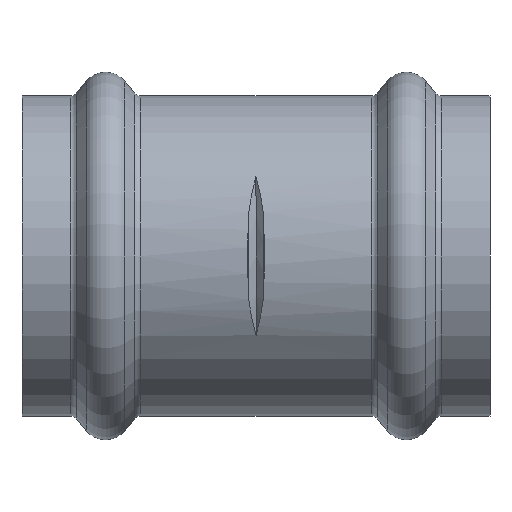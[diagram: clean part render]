
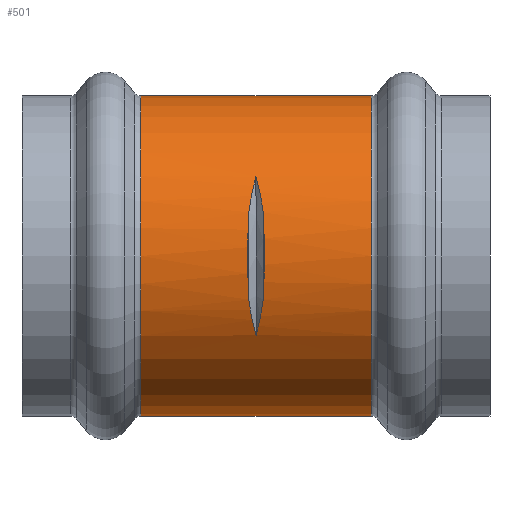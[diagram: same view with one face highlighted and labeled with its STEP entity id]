
A CAD part, front view. The second image highlights one B-rep face of the part: STEP entity #501.
In plain terms, the highlighted cylindrical face has radius 19.15 mm (diameter 38.3 mm), a partial arc.
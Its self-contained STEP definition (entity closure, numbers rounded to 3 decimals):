
#47 = EDGE_LOOP ( 'NONE', ( #655, #381, #93, #1516 ) ) ;
#91 = EDGE_LOOP ( 'NONE', ( #1649, #1735, #506, #459, #509, #1593 ) ) ;
#93 = ORIENTED_EDGE ( 'NONE', *, *, #1122, .T. ) ;
#103 = CARTESIAN_POINT ( 'NONE',  ( 1., -19.15, -0.424 ) ) ;
#195 = EDGE_CURVE ( 'NONE', #1580, #1938, #1861, .T. ) ;
#239 = DIRECTION ( 'NONE',  ( 0., 0., 1. ) ) ;
#250 = CARTESIAN_POINT ( 'NONE',  ( 0.985, -19.075, -1.753 ) ) ;
#260 = CARTESIAN_POINT ( 'NONE',  ( -0.953, -18.908, -3.515 ) ) ;
#276 = CARTESIAN_POINT ( 'NONE',  ( -16.83, 0., 19.15 ) ) ;
#309 = CARTESIAN_POINT ( 'NONE',  ( -0.859, -18.424, 5.223 ) ) ;
#335 = CARTESIAN_POINT ( 'NONE',  ( -13.778, 0., -19.15 ) ) ;
#374 = DIRECTION ( 'NONE',  ( 0., 0., -1. ) ) ;
#378 = CARTESIAN_POINT ( 'NONE',  ( 0., -16.629, -9.497 ) ) ;
#381 = ORIENTED_EDGE ( 'NONE', *, *, #1513, .T. ) ;
#412 = CARTESIAN_POINT ( 'NONE',  ( 0.941, -18.847, -3.505 ) ) ;
#424 = CARTESIAN_POINT ( 'NONE',  ( -0.906, -18.666, 4.369 ) ) ;
#431 = VERTEX_POINT ( 'NONE', #529 ) ;
#441 = EDGE_CURVE ( 'NONE', #1268, #1938, #1884, .T. ) ;
#444 = AXIS2_PLACEMENT_3D ( 'NONE', #1736, #863, #239 ) ;
#448 = AXIS2_PLACEMENT_3D ( 'NONE', #1951, #1282, #374 ) ;
#459 = ORIENTED_EDGE ( 'NONE', *, *, #1117, .T. ) ;
#501 = ADVANCED_FACE ( 'NONE', ( #1071, #1460 ), #1411, .T. ) ;
#506 = ORIENTED_EDGE ( 'NONE', *, *, #1215, .T. ) ;
#509 = ORIENTED_EDGE ( 'NONE', *, *, #1412, .T. ) ;
#528 = EDGE_CURVE ( 'NONE', #1508, #1385, #1281, .T. ) ;
#529 = CARTESIAN_POINT ( 'NONE',  ( -0.859, -18.424, -5.223 ) ) ;
#538 = CIRCLE ( 'NONE', #1425, 19.15 ) ;
#567 = VECTOR ( 'NONE', #1483, 1000. ) ;
#577 = CARTESIAN_POINT ( 'NONE',  ( 0.859, -18.424, -5.223 ) ) ;
#578 = CARTESIAN_POINT ( 'NONE',  ( -0.859, -18.424, 5.223 ) ) ;
#595 = CARTESIAN_POINT ( 'NONE',  ( 0.859, -18.424, -5.223 ) ) ;
#629 = CARTESIAN_POINT ( 'NONE',  ( 0.859, -18.424, 5.223 ) ) ;
#635 = CARTESIAN_POINT ( 'NONE',  ( -16.83, 0., -19.15 ) ) ;
#646 = CARTESIAN_POINT ( 'NONE',  ( 0.656, -17.995, -6.736 ) ) ;
#654 = CARTESIAN_POINT ( 'NONE',  ( -0.977, -19.029, 2.193 ) ) ;
#655 = ORIENTED_EDGE ( 'NONE', *, *, #441, .F. ) ;
#708 = CARTESIAN_POINT ( 'NONE',  ( 0.656, -17.995, 6.736 ) ) ;
#773 = CARTESIAN_POINT ( 'NONE',  ( 0.859, -18.424, -5.223 ) ) ;
#777 = VERTEX_POINT ( 'NONE', #378 ) ;
#783 = DIRECTION ( 'NONE',  ( 0., 0., 1. ) ) ;
#863 = DIRECTION ( 'NONE',  ( -1., 0., 0. ) ) ;
#878 = CARTESIAN_POINT ( 'NONE',  ( 0.953, -18.908, 3.515 ) ) ;
#903 = CARTESIAN_POINT ( 'NONE',  ( 0.37, -17.393, -8.159 ) ) ;
#931 = EDGE_CURVE ( 'NONE', #1816, #1508, #1550, .T. ) ;
#932 = CARTESIAN_POINT ( 'NONE',  ( 0., -16.629, -9.497 ) ) ;
#933 = VERTEX_POINT ( 'NONE', #1286 ) ;
#952 = CARTESIAN_POINT ( 'NONE',  ( -0.656, -17.995, 6.736 ) ) ;
#977 = CARTESIAN_POINT ( 'NONE',  ( -0.37, -17.393, -8.159 ) ) ;
#1025 = CARTESIAN_POINT ( 'NONE',  ( 0.859, -18.424, 5.223 ) ) ;
#1056 = VERTEX_POINT ( 'NONE', #578 ) ;
#1071 = FACE_OUTER_BOUND ( 'NONE', #47, .T. ) ;
#1104 = CARTESIAN_POINT ( 'NONE',  ( -0.941, -18.847, 3.505 ) ) ;
#1117 = EDGE_CURVE ( 'NONE', #431, #1056, #1222, .T. ) ;
#1122 = EDGE_CURVE ( 'NONE', #933, #1580, #1743, .T. ) ;
#1157 = CARTESIAN_POINT ( 'NONE',  ( 0.37, -17.393, 8.159 ) ) ;
#1166 = CARTESIAN_POINT ( 'NONE',  ( 0.997, -19.135, -0.868 ) ) ;
#1207 = CARTESIAN_POINT ( 'NONE',  ( 0., -16.629, 9.497 ) ) ;
#1215 = EDGE_CURVE ( 'NONE', #777, #431, #1257, .T. ) ;
#1219 = CARTESIAN_POINT ( 'NONE',  ( -0.859, -18.424, 5.223 ) ) ;
#1222 = B_SPLINE_CURVE_WITH_KNOTS ( 'NONE', 3,
 ( #1375, #260, #1640, #1224, #1237, #1249, #654, #1104, #424, #309 ),
 .UNSPECIFIED., .F., .F.,
 ( 4, 2, 2, 2, 4 ),
 ( 0., 0.005, 0.007, 0.008, 0.011 ),
 .UNSPECIFIED. ) ;
#1224 = CARTESIAN_POINT ( 'NONE',  ( -1., -19.15, 0.424 ) ) ;
#1237 = CARTESIAN_POINT ( 'NONE',  ( -0.997, -19.135, 0.868 ) ) ;
#1249 = CARTESIAN_POINT ( 'NONE',  ( -0.985, -19.075, 1.753 ) ) ;
#1257 = B_SPLINE_CURVE_WITH_KNOTS ( 'NONE', 3,
 ( #1728, #977, #1319, #1461 ),
 .UNSPECIFIED., .F., .F.,
 ( 4, 4 ),
 ( 0., 0.005 ),
 .UNSPECIFIED. ) ;
#1268 = VERTEX_POINT ( 'NONE', #1611 ) ;
#1278 = CARTESIAN_POINT ( 'NONE',  ( 0., -16.629, 9.497 ) ) ;
#1281 = B_SPLINE_CURVE_WITH_KNOTS ( 'NONE', 3,
 ( #1025, #878, #1752, #103, #1166, #250, #1321, #412, #1464, #577 ),
 .UNSPECIFIED., .F., .F.,
 ( 4, 2, 2, 2, 4 ),
 ( 0., 0.005, 0.007, 0.008, 0.011 ),
 .UNSPECIFIED. ) ;
#1282 = DIRECTION ( 'NONE',  ( 1., 0., 0. ) ) ;
#1286 = CARTESIAN_POINT ( 'NONE',  ( 13.778, 0., 19.15 ) ) ;
#1305 = CARTESIAN_POINT ( 'NONE',  ( -0.37, -17.393, 8.159 ) ) ;
#1319 = CARTESIAN_POINT ( 'NONE',  ( -0.656, -17.995, -6.736 ) ) ;
#1321 = CARTESIAN_POINT ( 'NONE',  ( 0.977, -19.029, -2.193 ) ) ;
#1364 = CARTESIAN_POINT ( 'NONE',  ( 0., -16.629, 9.497 ) ) ;
#1375 = CARTESIAN_POINT ( 'NONE',  ( -0.859, -18.424, -5.223 ) ) ;
#1385 = VERTEX_POINT ( 'NONE', #595 ) ;
#1395 = B_SPLINE_CURVE_WITH_KNOTS ( 'NONE', 3,
 ( #773, #646, #903, #932 ),
 .UNSPECIFIED., .F., .F.,
 ( 4, 4 ),
 ( 0., 0.005 ),
 .UNSPECIFIED. ) ;
#1400 = EDGE_CURVE ( 'NONE', #1385, #777, #1395, .T. ) ;
#1411 = CYLINDRICAL_SURFACE ( 'NONE', #444, 19.15 ) ;
#1412 = EDGE_CURVE ( 'NONE', #1056, #1816, #1814, .T. ) ;
#1425 = AXIS2_PLACEMENT_3D ( 'NONE', #1432, #1481, #783 ) ;
#1432 = CARTESIAN_POINT ( 'NONE',  ( 13.778, 0., 0. ) ) ;
#1437 = DIRECTION ( 'NONE',  ( -1., 0., 0. ) ) ;
#1460 = FACE_BOUND ( 'NONE', #91, .T. ) ;
#1461 = CARTESIAN_POINT ( 'NONE',  ( -0.859, -18.424, -5.223 ) ) ;
#1464 = CARTESIAN_POINT ( 'NONE',  ( 0.906, -18.666, -4.369 ) ) ;
#1481 = DIRECTION ( 'NONE',  ( -1., 0., 0. ) ) ;
#1483 = DIRECTION ( 'NONE',  ( -1., 0., 0. ) ) ;
#1508 = VERTEX_POINT ( 'NONE', #1666 ) ;
#1513 = EDGE_CURVE ( 'NONE', #1268, #933, #538, .T. ) ;
#1514 = VECTOR ( 'NONE', #1437, 1000. ) ;
#1516 = ORIENTED_EDGE ( 'NONE', *, *, #195, .T. ) ;
#1550 = B_SPLINE_CURVE_WITH_KNOTS ( 'NONE', 3,
 ( #1278, #1157, #708, #629 ),
 .UNSPECIFIED., .F., .F.,
 ( 4, 4 ),
 ( 0., 0.005 ),
 .UNSPECIFIED. ) ;
#1580 = VERTEX_POINT ( 'NONE', #1821 ) ;
#1593 = ORIENTED_EDGE ( 'NONE', *, *, #931, .T. ) ;
#1611 = CARTESIAN_POINT ( 'NONE',  ( 13.778, 0., -19.15 ) ) ;
#1640 = CARTESIAN_POINT ( 'NONE',  ( -1., -19.148, -1.78 ) ) ;
#1649 = ORIENTED_EDGE ( 'NONE', *, *, #528, .T. ) ;
#1666 = CARTESIAN_POINT ( 'NONE',  ( 0.859, -18.424, 5.223 ) ) ;
#1728 = CARTESIAN_POINT ( 'NONE',  ( 0., -16.629, -9.497 ) ) ;
#1735 = ORIENTED_EDGE ( 'NONE', *, *, #1400, .T. ) ;
#1736 = CARTESIAN_POINT ( 'NONE',  ( -16.83, 0., 0. ) ) ;
#1743 = LINE ( 'NONE', #276, #567 ) ;
#1752 = CARTESIAN_POINT ( 'NONE',  ( 1., -19.148, 1.78 ) ) ;
#1814 = B_SPLINE_CURVE_WITH_KNOTS ( 'NONE', 3,
 ( #1219, #952, #1305, #1364 ),
 .UNSPECIFIED., .F., .F.,
 ( 4, 4 ),
 ( 0., 0.005 ),
 .UNSPECIFIED. ) ;
#1816 = VERTEX_POINT ( 'NONE', #1207 ) ;
#1821 = CARTESIAN_POINT ( 'NONE',  ( -13.778, 0., 19.15 ) ) ;
#1861 = CIRCLE ( 'NONE', #448, 19.15 ) ;
#1884 = LINE ( 'NONE', #635, #1514 ) ;
#1938 = VERTEX_POINT ( 'NONE', #335 ) ;
#1951 = CARTESIAN_POINT ( 'NONE',  ( -13.778, 0., 0. ) ) ;
